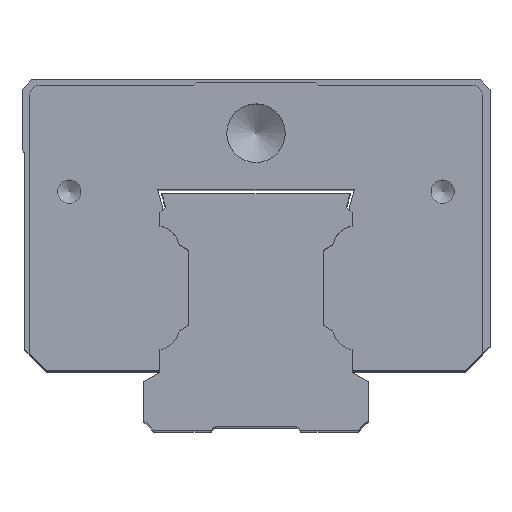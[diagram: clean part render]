
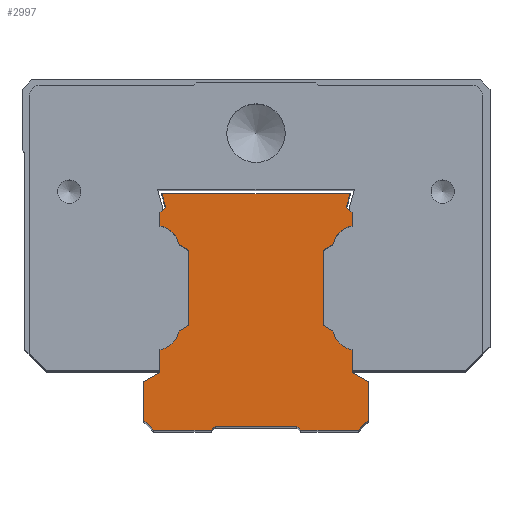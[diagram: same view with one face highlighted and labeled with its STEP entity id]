
A CAD part, top view. The second image highlights one B-rep face of the part: STEP entity #2997.
In plain terms, the highlighted planar face has unit normal (0, 0, 1).
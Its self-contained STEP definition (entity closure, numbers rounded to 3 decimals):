
#254=LINE('',#4343,#494);
#257=LINE('',#4349,#497);
#260=LINE('',#4355,#500);
#264=LINE('',#4364,#504);
#268=LINE('',#4373,#508);
#272=LINE('',#4385,#512);
#275=LINE('',#4391,#515);
#278=LINE('',#4397,#518);
#282=LINE('',#4409,#522);
#285=LINE('',#4415,#525);
#288=LINE('',#4421,#528);
#291=LINE('',#4427,#531);
#295=LINE('',#4434,#535);
#297=LINE('',#4439,#537);
#300=LINE('',#4445,#540);
#305=LINE('',#4460,#545);
#308=LINE('',#4466,#548);
#311=LINE('',#4472,#551);
#313=LINE('',#4475,#553);
#314=LINE('',#4476,#554);
#315=LINE('',#4479,#555);
#316=LINE('',#4481,#556);
#317=LINE('',#4483,#557);
#318=LINE('',#4485,#558);
#319=LINE('',#4487,#559);
#320=LINE('',#4489,#560);
#494=VECTOR('',#3693,1000.);
#497=VECTOR('',#3698,1000.);
#500=VECTOR('',#3703,1000.);
#504=VECTOR('',#3709,1000.);
#508=VECTOR('',#3715,1000.);
#512=VECTOR('',#3727,1000.);
#515=VECTOR('',#3732,1000.);
#518=VECTOR('',#3737,1000.);
#522=VECTOR('',#3749,1000.);
#525=VECTOR('',#3754,1000.);
#528=VECTOR('',#3759,1000.);
#531=VECTOR('',#3764,1000.);
#535=VECTOR('',#3770,1000.);
#537=VECTOR('',#3774,1000.);
#540=VECTOR('',#3779,1000.);
#545=VECTOR('',#3792,1000.);
#548=VECTOR('',#3797,1000.);
#551=VECTOR('',#3802,1000.);
#553=VECTOR('',#3806,1000.);
#554=VECTOR('',#3807,1000.);
#555=VECTOR('',#3810,1000.);
#556=VECTOR('',#3811,1000.);
#557=VECTOR('',#3812,1000.);
#558=VECTOR('',#3813,1000.);
#559=VECTOR('',#3814,1000.);
#560=VECTOR('',#3815,1000.);
#1087=ORIENTED_EDGE('',*,*,#1401,.F.);
#1088=ORIENTED_EDGE('',*,*,#1398,.F.);
#1089=ORIENTED_EDGE('',*,*,#1463,.T.);
#1090=ORIENTED_EDGE('',*,*,#1404,.F.);
#1091=ORIENTED_EDGE('',*,*,#1408,.T.);
#1092=ORIENTED_EDGE('',*,*,#1412,.F.);
#1093=ORIENTED_EDGE('',*,*,#1433,.F.);
#1094=ORIENTED_EDGE('',*,*,#1427,.T.);
#1095=ORIENTED_EDGE('',*,*,#1424,.F.);
#1096=ORIENTED_EDGE('',*,*,#1421,.F.);
#1097=ORIENTED_EDGE('',*,*,#1418,.F.);
#1098=ORIENTED_EDGE('',*,*,#1416,.T.);
#1099=ORIENTED_EDGE('',*,*,#1430,.F.);
#1100=ORIENTED_EDGE('',*,*,#1436,.F.);
#1101=ORIENTED_EDGE('',*,*,#1439,.F.);
#1102=ORIENTED_EDGE('',*,*,#1443,.T.);
#1103=ORIENTED_EDGE('',*,*,#1445,.F.);
#1104=ORIENTED_EDGE('',*,*,#1448,.F.);
#1105=ORIENTED_EDGE('',*,*,#1464,.T.);
#1106=ORIENTED_EDGE('',*,*,#1453,.T.);
#1107=ORIENTED_EDGE('',*,*,#1455,.F.);
#1108=ORIENTED_EDGE('',*,*,#1458,.F.);
#1109=ORIENTED_EDGE('',*,*,#1461,.F.);
#1110=ORIENTED_EDGE('',*,*,#1465,.T.);
#1111=ORIENTED_EDGE('',*,*,#1466,.T.);
#1112=ORIENTED_EDGE('',*,*,#1467,.F.);
#1113=ORIENTED_EDGE('',*,*,#1468,.T.);
#1114=ORIENTED_EDGE('',*,*,#1469,.F.);
#1115=ORIENTED_EDGE('',*,*,#1470,.T.);
#1116=ORIENTED_EDGE('',*,*,#1471,.F.);
#1398=EDGE_CURVE('',#1658,#1659,#254,.T.);
#1401=EDGE_CURVE('',#1659,#1661,#257,.T.);
#1404=EDGE_CURVE('',#1663,#1664,#260,.T.);
#1408=EDGE_CURVE('',#1663,#1667,#264,.T.);
#1412=EDGE_CURVE('',#1669,#1667,#268,.T.);
#1416=EDGE_CURVE('',#1674,#1673,#1774,.T.);
#1418=EDGE_CURVE('',#1674,#1675,#272,.T.);
#1421=EDGE_CURVE('',#1675,#1677,#275,.T.);
#1424=EDGE_CURVE('',#1677,#1679,#278,.T.);
#1427=EDGE_CURVE('',#1681,#1679,#1775,.T.);
#1430=EDGE_CURVE('',#1683,#1673,#282,.T.);
#1433=EDGE_CURVE('',#1681,#1669,#285,.T.);
#1436=EDGE_CURVE('',#1685,#1683,#288,.T.);
#1439=EDGE_CURVE('',#1688,#1685,#291,.T.);
#1443=EDGE_CURVE('',#1688,#1690,#295,.T.);
#1445=EDGE_CURVE('',#1691,#1690,#297,.T.);
#1448=EDGE_CURVE('',#1694,#1691,#300,.T.);
#1453=EDGE_CURVE('',#1696,#1698,#1778,.T.);
#1455=EDGE_CURVE('',#1699,#1698,#305,.T.);
#1458=EDGE_CURVE('',#1701,#1699,#308,.T.);
#1461=EDGE_CURVE('',#1704,#1701,#311,.T.);
#1463=EDGE_CURVE('',#1658,#1664,#313,.T.);
#1464=EDGE_CURVE('',#1694,#1696,#314,.T.);
#1465=EDGE_CURVE('',#1704,#1705,#1779,.T.);
#1466=EDGE_CURVE('',#1705,#1706,#315,.T.);
#1467=EDGE_CURVE('',#1707,#1706,#316,.T.);
#1468=EDGE_CURVE('',#1707,#1708,#317,.T.);
#1469=EDGE_CURVE('',#1709,#1708,#318,.T.);
#1470=EDGE_CURVE('',#1709,#1710,#319,.T.);
#1471=EDGE_CURVE('',#1661,#1710,#320,.T.);
#1658=VERTEX_POINT('',#4342);
#1659=VERTEX_POINT('',#4344);
#1661=VERTEX_POINT('',#4350);
#1663=VERTEX_POINT('',#4356);
#1664=VERTEX_POINT('',#4357);
#1667=VERTEX_POINT('',#4365);
#1669=VERTEX_POINT('',#4371);
#1673=VERTEX_POINT('',#4380);
#1674=VERTEX_POINT('',#4382);
#1675=VERTEX_POINT('',#4386);
#1677=VERTEX_POINT('',#4392);
#1679=VERTEX_POINT('',#4398);
#1681=VERTEX_POINT('',#4404);
#1683=VERTEX_POINT('',#4410);
#1685=VERTEX_POINT('',#4419);
#1688=VERTEX_POINT('',#4426);
#1690=VERTEX_POINT('',#4433);
#1691=VERTEX_POINT('',#4437);
#1694=VERTEX_POINT('',#4444);
#1696=VERTEX_POINT('',#4450);
#1698=VERTEX_POINT('',#4454);
#1699=VERTEX_POINT('',#4458);
#1701=VERTEX_POINT('',#4464);
#1704=VERTEX_POINT('',#4471);
#1705=VERTEX_POINT('',#4478);
#1706=VERTEX_POINT('',#4480);
#1707=VERTEX_POINT('',#4482);
#1708=VERTEX_POINT('',#4484);
#1709=VERTEX_POINT('',#4486);
#1710=VERTEX_POINT('',#4488);
#1774=CIRCLE('',#3184,2.45);
#1775=CIRCLE('',#3189,2.45);
#1778=CIRCLE('',#3200,2.45);
#1779=CIRCLE('',#3205,2.45);
#1942=EDGE_LOOP('',(#1087,#1088,#1089,#1090,#1091,#1092,#1093,#1094,#1095,
#1096,#1097,#1098,#1099,#1100,#1101,#1102,#1103,#1104,#1105,#1106,#1107,
#1108,#1109,#1110,#1111,#1112,#1113,#1114,#1115,#1116));
#2128=FACE_BOUND('',#1942,.T.);
#2213=PLANE('',#3204);
#2997=ADVANCED_FACE('',(#2128),#2213,.T.);
#3184=AXIS2_PLACEMENT_3D('',#4381,#3722,#3723);
#3189=AXIS2_PLACEMENT_3D('',#4403,#3742,#3743);
#3200=AXIS2_PLACEMENT_3D('',#4455,#3787,#3788);
#3204=AXIS2_PLACEMENT_3D('',#4474,#3804,#3805);
#3205=AXIS2_PLACEMENT_3D('',#4477,#3808,#3809);
#3693=DIRECTION('',(-0.707,0.707,0.));
#3698=DIRECTION('',(-1.,0.,0.));
#3703=DIRECTION('',(-0.707,-0.707,0.));
#3709=DIRECTION('',(0.,1.,0.));
#3715=DIRECTION('',(0.866,-0.5,0.));
#3722=DIRECTION('',(0.,0.,-1.));
#3723=DIRECTION('',(-0.981,0.194,0.));
#3727=DIRECTION('',(-0.866,-0.5,0.));
#3732=DIRECTION('',(0.,-1.,0.));
#3737=DIRECTION('',(0.866,-0.5,0.));
#3742=DIRECTION('',(0.,0.,-1.));
#3743=DIRECTION('',(-0.184,-0.983,0.));
#3749=DIRECTION('',(0.,-1.,0.));
#3754=DIRECTION('',(0.,-1.,0.));
#3759=DIRECTION('',(0.707,-0.707,0.));
#3764=DIRECTION('',(-0.259,-0.966,0.));
#3770=DIRECTION('',(-1.,0.,0.));
#3774=DIRECTION('',(-0.259,0.966,0.));
#3779=DIRECTION('',(0.707,0.707,0.));
#3787=DIRECTION('',(0.,0.,-1.));
#3788=DIRECTION('',(0.184,0.983,0.));
#3792=DIRECTION('',(-0.866,0.5,0.));
#3797=DIRECTION('',(0.,1.,0.));
#3802=DIRECTION('',(0.866,0.5,0.));
#3804=DIRECTION('',(0.,0.,1.));
#3805=DIRECTION('',(1.,0.,0.));
#3806=DIRECTION('',(1.,0.,0.));
#3807=DIRECTION('',(0.,-1.,0.));
#3808=DIRECTION('',(0.,0.,-1.));
#3809=DIRECTION('',(0.981,-0.194,0.));
#3810=DIRECTION('',(0.,-1.,0.));
#3811=DIRECTION('',(0.866,0.5,0.));
#3812=DIRECTION('',(0.,-1.,0.));
#3813=DIRECTION('',(-0.707,0.707,0.));
#3814=DIRECTION('',(1.,0.,0.));
#3815=DIRECTION('',(-0.707,-0.707,0.));
#4342=CARTESIAN_POINT('',(4.6,-14.6,62.571));
#4343=CARTESIAN_POINT('',(4.6,-14.6,62.571));
#4344=CARTESIAN_POINT('',(4.2,-14.2,62.571));
#4349=CARTESIAN_POINT('',(4.2,-14.2,62.571));
#4350=CARTESIAN_POINT('',(-4.2,-14.2,62.571));
#4355=CARTESIAN_POINT('',(11.5,-13.6,62.571));
#4356=CARTESIAN_POINT('',(11.5,-13.6,62.571));
#4357=CARTESIAN_POINT('',(10.5,-14.6,62.571));
#4364=CARTESIAN_POINT('',(11.5,-13.6,62.571));
#4365=CARTESIAN_POINT('',(11.5,-9.653,62.571));
#4371=CARTESIAN_POINT('',(9.85,-8.7,62.571));
#4373=CARTESIAN_POINT('',(9.85,-8.7,62.571));
#4380=CARTESIAN_POINT('',(9.85,6.358,62.571));
#4381=CARTESIAN_POINT('',(10.3,3.95,62.571));
#4382=CARTESIAN_POINT('',(7.897,4.425,62.571));
#4385=CARTESIAN_POINT('',(7.897,4.425,62.571));
#4386=CARTESIAN_POINT('',(6.9,3.85,62.571));
#4391=CARTESIAN_POINT('',(6.9,3.85,62.571));
#4392=CARTESIAN_POINT('',(6.9,-3.85,62.571));
#4397=CARTESIAN_POINT('',(6.9,-3.85,62.571));
#4398=CARTESIAN_POINT('',(7.897,-4.425,62.571));
#4403=CARTESIAN_POINT('',(10.3,-3.95,62.571));
#4404=CARTESIAN_POINT('',(9.85,-6.358,62.571));
#4409=CARTESIAN_POINT('',(9.85,7.675,62.571));
#4410=CARTESIAN_POINT('',(9.85,7.675,62.571));
#4415=CARTESIAN_POINT('',(9.85,-6.358,62.571));
#4419=CARTESIAN_POINT('',(9.275,8.25,62.571));
#4421=CARTESIAN_POINT('',(9.275,8.25,62.571));
#4426=CARTESIAN_POINT('',(9.65,9.65,62.571));
#4427=CARTESIAN_POINT('',(9.65,9.65,62.571));
#4433=CARTESIAN_POINT('',(-9.65,9.65,62.571));
#4434=CARTESIAN_POINT('',(9.65,9.65,62.571));
#4437=CARTESIAN_POINT('',(-9.275,8.25,62.571));
#4439=CARTESIAN_POINT('',(-9.275,8.25,62.571));
#4444=CARTESIAN_POINT('',(-9.85,7.675,62.571));
#4445=CARTESIAN_POINT('',(-9.85,7.675,62.571));
#4450=CARTESIAN_POINT('',(-9.85,6.358,62.571));
#4454=CARTESIAN_POINT('',(-7.897,4.425,62.571));
#4455=CARTESIAN_POINT('',(-10.3,3.95,62.571));
#4458=CARTESIAN_POINT('',(-6.9,3.85,62.571));
#4460=CARTESIAN_POINT('',(-6.9,3.85,62.571));
#4464=CARTESIAN_POINT('',(-6.9,-3.85,62.571));
#4466=CARTESIAN_POINT('',(-6.9,-3.85,62.571));
#4471=CARTESIAN_POINT('',(-7.897,-4.425,62.571));
#4472=CARTESIAN_POINT('',(-7.897,-4.425,62.571));
#4474=CARTESIAN_POINT('',(0.,0.,62.571));
#4475=CARTESIAN_POINT('',(4.6,-14.6,62.571));
#4476=CARTESIAN_POINT('',(-9.85,7.675,62.571));
#4477=CARTESIAN_POINT('',(-10.3,-3.95,62.571));
#4478=CARTESIAN_POINT('',(-9.85,-6.358,62.571));
#4479=CARTESIAN_POINT('',(-9.85,-6.358,62.571));
#4480=CARTESIAN_POINT('',(-9.85,-8.7,62.571));
#4481=CARTESIAN_POINT('',(-11.5,-9.653,62.571));
#4482=CARTESIAN_POINT('',(-11.5,-9.653,62.571));
#4483=CARTESIAN_POINT('',(-11.5,-9.653,62.571));
#4484=CARTESIAN_POINT('',(-11.5,-13.6,62.571));
#4485=CARTESIAN_POINT('',(-10.5,-14.6,62.571));
#4486=CARTESIAN_POINT('',(-10.5,-14.6,62.571));
#4487=CARTESIAN_POINT('',(-10.5,-14.6,62.571));
#4488=CARTESIAN_POINT('',(-4.6,-14.6,62.571));
#4489=CARTESIAN_POINT('',(-4.2,-14.2,62.571));
